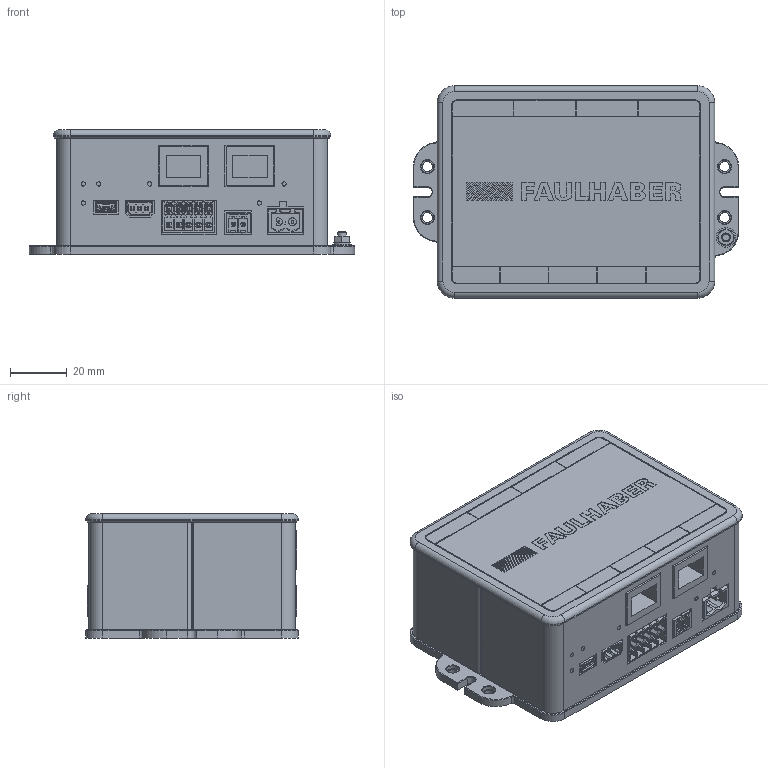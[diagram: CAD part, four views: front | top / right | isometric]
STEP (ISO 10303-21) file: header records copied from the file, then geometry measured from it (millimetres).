
FILE_DESCRIPTION(/* description */ (''),/* implementation_level */ '2;1');
FILE_NAME(/* name */ 'CONTROLLER MC50xx S ET.stp',/* time_stamp */ '2016-03-02T10:11:29+01:00',/* author */ ('DR. FRITZ FAULHABER GmbH & Co. KG'),/* organization */ ('DR. FRITZ FAULHABER GmbH & Co. KG'),/* preprocessor_version */ 'ST-DEVELOPER v15',/* originating_system */ 'SIEMENS PLM Software NX 8.5',/* authorisation */ '');
FILE_SCHEMA (('AUTOMOTIVE_DESIGN { 1 0 10303 214 3 1 1 1 }'));
Products named in the file (1): Alle_Controller_Platinen
Bounding box: 115 x 75 x 44 mm (x, y, z)
Volume: 300223 mm3; surface area: 47934 mm2
Topology: 1 solids, 3 shells, 3356 faces, 9303 edges, 6083 vertices
Faces by surface type: plane 2600, cylinder 547, cone 178, bspline 25, torus 6
Full cylindrical faces by diameter (mm): 1.5 x6, 2.459 x2, 3 x2, 3.2 x1, 3.5 x4, 4.6 x4, 5.5 x2, 6 x2, 6.1 x1, 7 x1
Entity records: 109128 total; most frequent: CARTESIAN_POINT 22589, ORIENTED_EDGE 18404, DIRECTION 17173, EDGE_CURVE 9202, LINE 7583, VECTOR 7583, VERTEX_POINT 6069, AXIS2_PLACEMENT_3D 4795
